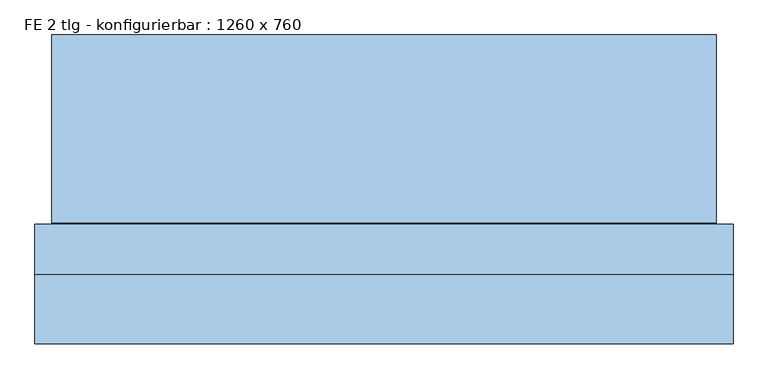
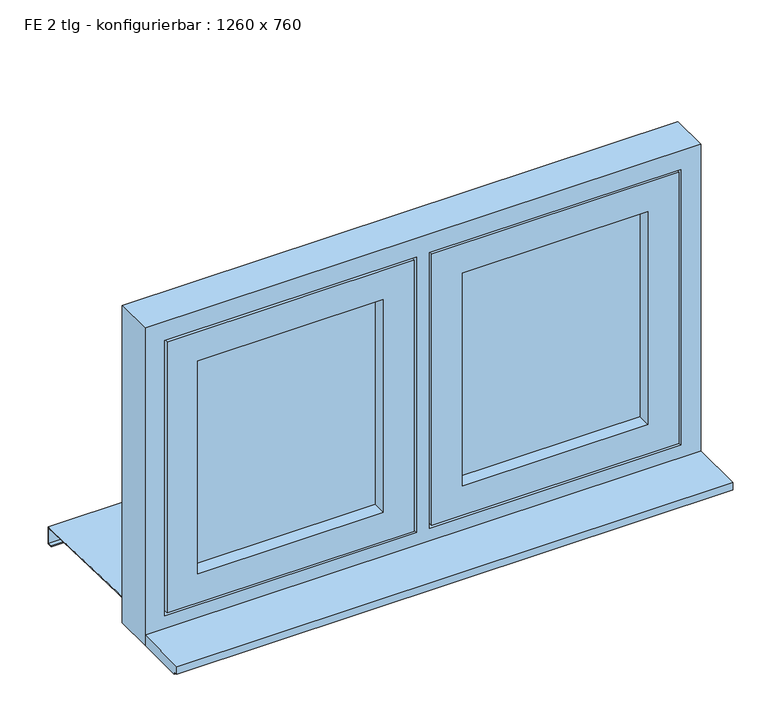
"""IFC4 building model written with IfcOpenShell, lengths in millimetres: window geometry, FE 2 tlg - konfigurierbar : 1260 x 760."""

from ifc_helpers import new_model, si_unit, frame, origin, place, context, project, spatial, polyline, outline, extrude, faceted_brep, source, transform, mapped, element, save


def fe_2_tlg_konfigurierbar_1260_x_760_5a7c37b6(model_context):
    return source(origin(), model_context, "Body", "SolidModel", [
        faceted_brep([(510.0, -62.5, 1490.0), (510.0, 27.5, 1490.0), (510.0, 27.5, 980.0), (510.0, -62.5, 980.0), (540.0, 27.5, 950.0), (60.0, 27.5, 950.0), (60.0, 27.5, 1520.0), (540.0, 27.5, 1520.0), (90.0, 27.5, 1490.0), (90.0, 27.5, 980.0), (90.0, -62.5, 980.0), (580.0, -62.5, 1560.0), (20.0, -62.5, 1560.0), (20.0, -62.5, 910.0), (580.0, -62.5, 910.0), (90.0, -62.5, 1490.0), (580.0, -47.5, 1560.0), (580.0, -47.5, 910.0), (20.0, -47.5, 910.0), (20.0, -47.5, 1560.0), (565.0, -47.5, 1545.0), (35.0, -47.5, 1545.0), (35.0, -47.5, 925.0), (565.0, -47.5, 925.0), (565.0, -17.5, 1545.0), (565.0, -17.5, 925.0), (35.0, -17.5, 925.0), (35.0, -17.5, 1545.0), (555.0, -17.5, 1535.0), (45.0, -17.5, 1535.0), (45.0, -17.5, 935.0), (555.0, -17.5, 935.0), (555.0, 12.5, 1535.0), (555.0, 12.5, 935.0), (45.0, 12.5, 935.0), (45.0, 12.5, 1535.0), (540.0, 12.5, 1520.0), (60.0, 12.5, 1520.0), (60.0, 12.5, 950.0), (540.0, 12.5, 950.0)], [[[0, 1, 2, 3]], [[4, 5, 6, 7], [1, 8, 9, 2]], [[3, 2, 9, 10]], [[11, 12, 13, 14], [3, 10, 15, 0]], [[16, 11, 14, 17]], [[17, 14, 13, 18]], [[17, 18, 19, 16], [20, 21, 22, 23]], [[24, 20, 23, 25]], [[25, 23, 22, 26]], [[25, 26, 27, 24], [28, 29, 30, 31]], [[32, 28, 31, 33]], [[33, 31, 30, 34]], [[33, 34, 35, 32], [36, 37, 38, 39]], [[7, 36, 39, 4]], [[4, 39, 38, 5]], [[10, 9, 8, 15]], [[18, 13, 12, 19]], [[26, 22, 21, 27]], [[34, 30, 29, 35]], [[5, 38, 37, 6]], [[15, 8, 1, 0]], [[19, 12, 11, 16]], [[27, 21, 20, 24]], [[35, 29, 28, 32]], [[6, 37, 36, 7]]]),
        extrude(outline(polyline([(510.0, 12.5), (510.0, -31.5), (90.0, -31.5), (90.0, 12.5), (510.0, 12.5)])), frame((0.0, 0.0, 980.0), z_axis=(0.0, 0.0, 1.0), x_axis=(1.0, 0.0, 0.0)), (0.0, 0.0, 1.0), 510.0),
        faceted_brep([(-600.0, 369.5, 861.3125305), (-600.0, 347.5, 862.0000305), (-600.0, 29.5, 871.9375305), (600.0, 29.5, 871.9375305), (600.0, 347.5, 862.0000305), (600.0, 369.5, 861.3125305), (-600.0, 369.5, 821.3125305), (600.0, 369.5, 821.3125305), (-600.0, 357.5, 821.3125305), (600.0, 357.5, 821.3125305), (-600.0, 357.5, 823.3125305), (600.0, 357.5, 823.3125305), (-600.0, 367.5, 823.3125305), (600.0, 367.5, 823.3125305), (-600.0, 367.5, 859.375), (600.0, 367.5, 859.375), (-600.0, 347.5, 860.0), (600.0, 347.5, 860.0), (600.0, 27.5, 870.0), (-600.0, 27.5, 870.0), (-600.0, 27.5, 890.0), (600.0, 27.5, 890.0), (-600.0, 29.5, 890.0), (600.0, 29.5, 890.0)], [[[0, 1, 2, 3, 4, 5]], [[6, 0, 5, 7]], [[8, 6, 7, 9]], [[10, 8, 9, 11]], [[12, 10, 11, 13]], [[14, 12, 13, 15]], [[16, 14, 15, 17, 18, 19]], [[20, 19, 18, 21]], [[22, 20, 21, 23]], [[2, 22, 23, 3]], [[16, 1, 0, 6, 8, 10, 12, 14]], [[17, 4, 3, 23, 21, 18]], [[1, 16, 19, 20, 22, 2]], [[4, 17, 15, 13, 11, 9, 7, 5]]]),
        faceted_brep([(-90.0, -62.5, 1490.0), (-90.0, 27.5, 1490.0), (-90.0, 27.5, 980.0), (-90.0, -62.5, 980.0), (-60.0, 27.5, 950.0), (-540.0, 27.5, 950.0), (-540.0, 27.5, 1520.0), (-60.0, 27.5, 1520.0), (-510.0, 27.5, 1490.0), (-510.0, 27.5, 980.0), (-510.0, -62.5, 980.0), (-20.0, -62.5, 1560.0), (-580.0, -62.5, 1560.0), (-580.0, -62.5, 910.0), (-20.0, -62.5, 910.0), (-510.0, -62.5, 1490.0), (-20.0, -47.5, 1560.0), (-20.0, -47.5, 910.0), (-580.0, -47.5, 910.0), (-580.0, -47.5, 1560.0), (-35.0, -47.5, 1545.0), (-565.0, -47.5, 1545.0), (-565.0, -47.5, 925.0), (-35.0, -47.5, 925.0), (-35.0, -17.5, 1545.0), (-35.0, -17.5, 925.0), (-565.0, -17.5, 925.0), (-565.0, -17.5, 1545.0), (-45.0, -17.5, 1535.0), (-555.0, -17.5, 1535.0), (-555.0, -17.5, 935.0), (-45.0, -17.5, 935.0), (-45.0, 12.5, 1535.0), (-45.0, 12.5, 935.0), (-555.0, 12.5, 935.0), (-555.0, 12.5, 1535.0), (-60.0, 12.5, 1520.0), (-540.0, 12.5, 1520.0), (-540.0, 12.5, 950.0), (-60.0, 12.5, 950.0)], [[[0, 1, 2, 3]], [[4, 5, 6, 7], [1, 8, 9, 2]], [[3, 2, 9, 10]], [[11, 12, 13, 14], [3, 10, 15, 0]], [[16, 11, 14, 17]], [[17, 14, 13, 18]], [[17, 18, 19, 16], [20, 21, 22, 23]], [[24, 20, 23, 25]], [[25, 23, 22, 26]], [[25, 26, 27, 24], [28, 29, 30, 31]], [[32, 28, 31, 33]], [[33, 31, 30, 34]], [[33, 34, 35, 32], [36, 37, 38, 39]], [[7, 36, 39, 4]], [[4, 39, 38, 5]], [[10, 9, 8, 15]], [[18, 13, 12, 19]], [[26, 22, 21, 27]], [[34, 30, 29, 35]], [[5, 38, 37, 6]], [[15, 8, 1, 0]], [[19, 12, 11, 16]], [[27, 21, 20, 24]], [[35, 29, 28, 32]], [[6, 37, 36, 7]]]),
        extrude(outline(polyline([(-90.0, 12.5), (-90.0, -31.5), (-510.0, -31.5), (-510.0, 12.5), (-90.0, 12.5)])), frame((0.0, 0.0, 980.0), z_axis=(0.0, 0.0, 1.0), x_axis=(1.0, 0.0, 0.0)), (0.0, 0.0, 1.0), 510.0),
        faceted_brep([(630.0, 27.5, 850.0), (630.0, -62.5, 850.0), (-630.0, -62.5, 850.0), (-630.0, 27.5, 850.0), (630.0, 27.5, 1610.0), (630.0, -62.5, 1610.0), (-630.0, -62.5, 1610.0), (585.0, -62.5, 1565.0), (585.0, -62.5, 905.0), (15.0, -62.5, 905.0), (15.0, -62.5, 1565.0), (-15.0, -62.5, 1565.0), (-15.0, -62.5, 905.0), (-585.0, -62.5, 905.0), (-585.0, -62.5, 1565.0), (-630.0, 27.5, 1610.0), (-55.0, 27.5, 945.0), (-55.0, 27.5, 1525.0), (-545.0, 27.5, 1525.0), (-545.0, 27.5, 945.0), (545.0, 27.5, 945.0), (545.0, 27.5, 1525.0), (55.0, 27.5, 1525.0), (55.0, 27.5, 945.0), (545.0, 12.5, 945.0), (545.0, 12.5, 1525.0), (55.0, 12.5, 945.0), (55.0, 12.5, 1525.0), (-55.0, 12.5, 945.0), (-55.0, 12.5, 1525.0), (-545.0, 12.5, 945.0), (-545.0, 12.5, 1525.0), (585.0, -47.5, 1565.0), (585.0, -47.5, 905.0), (15.0, -47.5, 905.0), (15.0, -47.5, 1565.0), (-15.0, -47.5, 1565.0), (-15.0, -47.5, 905.0), (-585.0, -47.5, 905.0), (-585.0, -47.5, 1565.0), (570.0, -47.5, 1550.0), (570.0, -47.5, 920.0), (30.0, -47.5, 920.0), (30.0, -47.5, 1550.0), (570.0, -17.5, 920.0), (570.0, -17.5, 1550.0), (30.0, -17.5, 1550.0), (30.0, -17.5, 920.0), (560.0, -17.5, 1540.0), (560.0, -17.5, 930.0), (40.0, -17.5, 930.0), (40.0, -17.5, 1540.0), (560.0, 12.5, 930.0), (560.0, 12.5, 1540.0), (40.0, 12.5, 1540.0), (40.0, 12.5, 930.0), (-30.0, -47.5, 1550.0), (-30.0, -47.5, 920.0), (-570.0, -47.5, 920.0), (-570.0, -47.5, 1550.0), (-30.0, -17.5, 920.0), (-30.0, -17.5, 1550.0), (-570.0, -17.5, 1550.0), (-570.0, -17.5, 920.0), (-40.0, -17.5, 1540.0), (-40.0, -17.5, 930.0), (-560.0, -17.5, 930.0), (-560.0, -17.5, 1540.0), (-40.0, 12.5, 930.0), (-40.0, 12.5, 1540.0), (-560.0, 12.5, 1540.0), (-560.0, 12.5, 930.0)], [[[0, 1, 2, 3]], [[4, 5, 1, 0]], [[5, 6, 2, 1], [7, 8, 9, 10], [11, 12, 13, 14]], [[6, 15, 3, 2]], [[15, 4, 0, 3], [16, 17, 18, 19], [20, 21, 22, 23]], [[20, 24, 25, 21]], [[26, 23, 22, 27]], [[24, 20, 23, 26]], [[16, 28, 29, 17]], [[30, 19, 18, 31]], [[28, 16, 19, 30]], [[32, 33, 8, 7]], [[8, 33, 34, 9]], [[9, 34, 35, 10]], [[36, 37, 12, 11]], [[12, 37, 38, 13]], [[13, 38, 39, 14]], [[33, 32, 35, 34], [40, 41, 42, 43]], [[44, 45, 46, 47], [48, 49, 50, 51]], [[45, 44, 41, 40]], [[41, 44, 47, 42]], [[52, 53, 54, 55], [25, 24, 26, 27]], [[53, 52, 49, 48]], [[49, 52, 55, 50]], [[42, 47, 46, 43]], [[50, 55, 54, 51]], [[37, 36, 39, 38], [56, 57, 58, 59]], [[60, 61, 62, 63], [64, 65, 66, 67]], [[61, 60, 57, 56]], [[57, 60, 63, 58]], [[68, 69, 70, 71], [29, 28, 30, 31]], [[69, 68, 65, 64]], [[65, 68, 71, 66]], [[58, 63, 62, 59]], [[66, 71, 70, 67]], [[4, 15, 6, 5]], [[32, 7, 10, 35]], [[45, 40, 43, 46]], [[53, 48, 51, 54]], [[21, 25, 27, 22]], [[36, 11, 14, 39]], [[61, 56, 59, 62]], [[69, 64, 67, 70]], [[17, 29, 31, 18]]]),
        extrude(outline(polyline([(-187.5, 875.0), (-62.5, 875.0), (-62.5, 850.0), (-177.5, 850.0), (-177.5, 857.0), (-187.5, 857.0), (-187.5, 875.0)])), frame((-630.0, 0.0, 0.0), z_axis=(1.0, 0.0, 0.0), x_axis=(0.0, 1.0, 0.0)), (0.0, 0.0, 1.0), 1260.0),
    ])


if __name__ == "__main__":
    model = new_model("IFC4")
    model_context = context("Model", 3, world=origin())
    ifc_project = project(units=[si_unit("LENGTHUNIT", "METRE", prefix="MILLI")], contexts=[model_context])
    site = spatial("IfcSite", under=ifc_project)
    building = spatial("IfcBuilding", under=site)
    placement = place(None, origin())
    fe_2_tlg_konfigurierbar_1260_x_760_shape = fe_2_tlg_konfigurierbar_1260_x_760_5a7c37b6(model_context)
    element("IfcWindow", 1, ObjectType="FE 2 tlg - konfigurierbar : 1260 x 760", at=placement, inside=building, context=model_context, shape_type="MappedRepresentation", body=[
        mapped(fe_2_tlg_konfigurierbar_1260_x_760_shape, transform((0.0, 0.0, 0.0), x_axis=(1.0, 0.0, 0.0), y_axis=(0.0, 1.0, 0.0), z_axis=(0.0, 0.0, 1.0))),
    ])
    save(model, "model.ifc")
